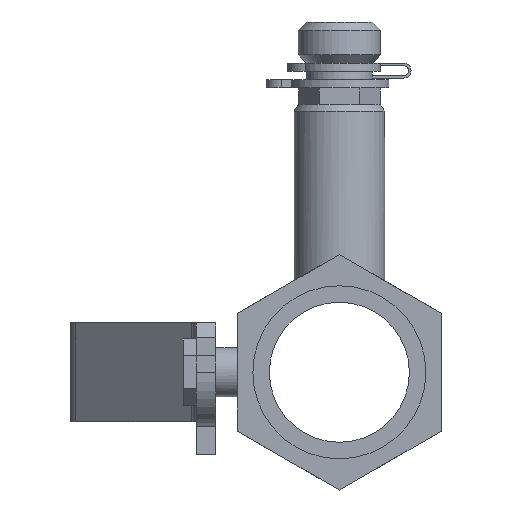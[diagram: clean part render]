
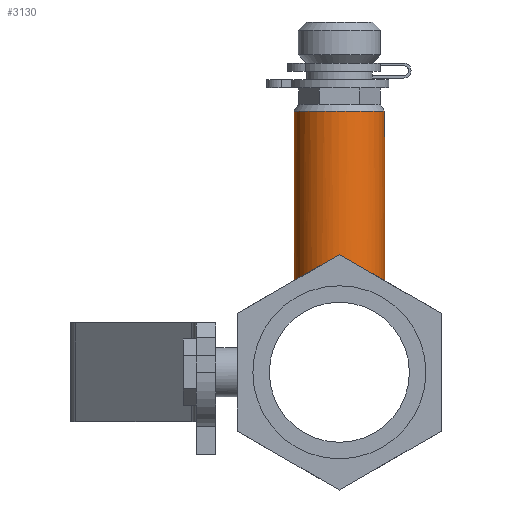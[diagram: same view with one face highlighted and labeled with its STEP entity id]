
A CAD part, left-side view. The second image highlights one B-rep face of the part: STEP entity #3130.
In plain terms, the highlighted cylindrical face has radius 6.985 mm (diameter 13.97 mm), a full revolution.
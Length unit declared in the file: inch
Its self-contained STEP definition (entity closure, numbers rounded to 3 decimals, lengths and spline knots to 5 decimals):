
#57=B_SPLINE_CURVE_WITH_KNOTS('',3,(#5066,#5067,#5068,#5069,#5070,#5071,
#5072,#5073,#5074,#5075),.UNSPECIFIED.,.F.,.F.,(4,2,2,2,4),(0.,0.26746,
0.53491,0.80194,1.06896),.UNSPECIFIED.);
#58=B_SPLINE_CURVE_WITH_KNOTS('',3,(#5076,#5077,#5078,#5079,#5080,#5081,
#5082,#5083,#5084,#5085,#5086,#5087,#5088,#5089,#5090,#5091,#5092,#5093,
#5094,#5095,#5096,#5097,#5098,#5099,#5100,#5101),.UNSPECIFIED.,.F.,.F.,
(4,2,2,2,2,2,2,2,2,2,2,2,4),(1.06896,1.33599,1.60301,
1.87047,2.13792,2.40538,2.67283,2.93986,
3.20688,3.47391,3.74093,4.00839,4.27584),
 .UNSPECIFIED.);
#309=FACE_OUTER_BOUND('',#488,.T.);
#488=EDGE_LOOP('',(#2558,#2559,#2560,#2561,#2562));
#644=CIRCLE('',#3411,0.275);
#864=LINE('',#5064,#1164);
#1164=VECTOR('',#4115,0.275);
#1459=VERTEX_POINT('',#5059);
#1460=VERTEX_POINT('',#5063);
#1461=VERTEX_POINT('',#5065);
#1838=EDGE_CURVE('',#1459,#1459,#644,.T.);
#1840=EDGE_CURVE('',#1459,#1460,#864,.T.);
#1841=EDGE_CURVE('',#1461,#1460,#57,.T.);
#1842=EDGE_CURVE('',#1460,#1461,#58,.T.);
#2558=ORIENTED_EDGE('',*,*,#1838,.F.);
#2559=ORIENTED_EDGE('',*,*,#1840,.T.);
#2560=ORIENTED_EDGE('',*,*,#1841,.F.);
#2561=ORIENTED_EDGE('',*,*,#1842,.F.);
#2562=ORIENTED_EDGE('',*,*,#1840,.F.);
#2850=CYLINDRICAL_SURFACE('',#3412,0.275);
#3130=ADVANCED_FACE('',(#309),#2850,.T.);
#3411=AXIS2_PLACEMENT_3D('',#5060,#4110,#4111);
#3412=AXIS2_PLACEMENT_3D('',#5062,#4113,#4114);
#4110=DIRECTION('center_axis',(0.,0.,1.));
#4111=DIRECTION('ref_axis',(-1.,0.,0.));
#4113=DIRECTION('center_axis',(0.,0.,1.));
#4114=DIRECTION('ref_axis',(-1.,0.,0.));
#4115=DIRECTION('',(0.,0.,-1.));
#5059=CARTESIAN_POINT('',(-0.35,0.,1.585));
#5060=CARTESIAN_POINT('Origin',(-0.625,0.,1.585));
#5062=CARTESIAN_POINT('Origin',(-0.625,0.,0.));
#5063=CARTESIAN_POINT('',(-0.35,0.,0.6185));
#5064=CARTESIAN_POINT('',(-0.35,0.,0.));
#5065=CARTESIAN_POINT('',(-0.625,0.275,0.554));
#5066=CARTESIAN_POINT('Ctrl Pts',(-0.625,0.275,0.554));
#5067=CARTESIAN_POINT('Ctrl Pts',(-0.5899,0.275,0.554));
#5068=CARTESIAN_POINT('Ctrl Pts',(-0.55287,0.26788,0.55769));
#5069=CARTESIAN_POINT('Ctrl Pts',(-0.4853,0.23969,
0.57038));
#5070=CARTESIAN_POINT('Ctrl Pts',(-0.45471,0.21862,
0.57913));
#5071=CARTESIAN_POINT('Ctrl Pts',(-0.40642,0.17033,
0.59513));
#5072=CARTESIAN_POINT('Ctrl Pts',(-0.38532,0.13973,
0.60349));
#5073=CARTESIAN_POINT('Ctrl Pts',(-0.3571,0.0721,
0.61524));
#5074=CARTESIAN_POINT('Ctrl Pts',(-0.35,0.03504,0.6185));
#5075=CARTESIAN_POINT('Ctrl Pts',(-0.35,0.,0.6185));
#5076=CARTESIAN_POINT('Ctrl Pts',(-0.35,0.,0.6185));
#5077=CARTESIAN_POINT('Ctrl Pts',(-0.35,-0.03504,0.6185));
#5078=CARTESIAN_POINT('Ctrl Pts',(-0.3571,-0.0721,
0.61524));
#5079=CARTESIAN_POINT('Ctrl Pts',(-0.38532,-0.13973,
0.60349));
#5080=CARTESIAN_POINT('Ctrl Pts',(-0.40642,-0.17033,
0.59513));
#5081=CARTESIAN_POINT('Ctrl Pts',(-0.45471,-0.21862,
0.57913));
#5082=CARTESIAN_POINT('Ctrl Pts',(-0.4853,-0.23969,
0.57038));
#5083=CARTESIAN_POINT('Ctrl Pts',(-0.55287,-0.26788,
0.55769));
#5084=CARTESIAN_POINT('Ctrl Pts',(-0.5899,-0.275,0.554));
#5085=CARTESIAN_POINT('Ctrl Pts',(-0.6601,-0.275,0.554));
#5086=CARTESIAN_POINT('Ctrl Pts',(-0.69713,-0.26788,
0.55769));
#5087=CARTESIAN_POINT('Ctrl Pts',(-0.7647,-0.23969,
0.57038));
#5088=CARTESIAN_POINT('Ctrl Pts',(-0.79529,-0.21862,
0.57913));
#5089=CARTESIAN_POINT('Ctrl Pts',(-0.84358,-0.17033,
0.59513));
#5090=CARTESIAN_POINT('Ctrl Pts',(-0.86468,-0.13973,
0.60349));
#5091=CARTESIAN_POINT('Ctrl Pts',(-0.8929,-0.0721,
0.61524));
#5092=CARTESIAN_POINT('Ctrl Pts',(-0.9,-0.03504,0.6185));
#5093=CARTESIAN_POINT('Ctrl Pts',(-0.9,0.03504,0.6185));
#5094=CARTESIAN_POINT('Ctrl Pts',(-0.8929,0.0721,
0.61524));
#5095=CARTESIAN_POINT('Ctrl Pts',(-0.86468,0.13973,
0.60349));
#5096=CARTESIAN_POINT('Ctrl Pts',(-0.84358,0.17033,
0.59513));
#5097=CARTESIAN_POINT('Ctrl Pts',(-0.79529,0.21862,
0.57913));
#5098=CARTESIAN_POINT('Ctrl Pts',(-0.7647,0.23969,
0.57038));
#5099=CARTESIAN_POINT('Ctrl Pts',(-0.69713,0.26788,0.55769));
#5100=CARTESIAN_POINT('Ctrl Pts',(-0.6601,0.275,0.554));
#5101=CARTESIAN_POINT('Ctrl Pts',(-0.625,0.275,0.554));
